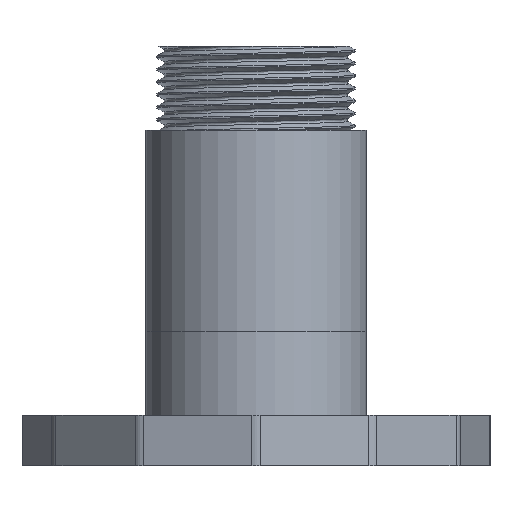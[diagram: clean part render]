
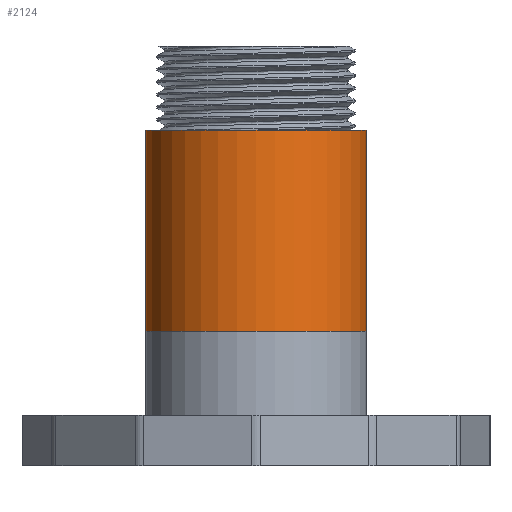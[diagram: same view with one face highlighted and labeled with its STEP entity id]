
A CAD part, front view. The second image highlights one B-rep face of the part: STEP entity #2124.
In plain terms, the highlighted cylindrical face has radius 13.15 mm (diameter 26.3 mm), a full revolution.
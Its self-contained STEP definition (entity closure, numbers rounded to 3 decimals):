
#122 = PLANE('',#123);
#123 = AXIS2_PLACEMENT_3D('',#124,#125,#126);
#124 = CARTESIAN_POINT('',(0.,0.,6.));
#125 = DIRECTION('',(0.,0.,1.));
#126 = DIRECTION('',(1.,0.,0.));
#1490 = EDGE_CURVE('',#1491,#1491,#1493,.T.);
#1491 = VERTEX_POINT('',#1492);
#1492 = CARTESIAN_POINT('',(13.15,0.,6.));
#1493 = SURFACE_CURVE('',#1494,(#1499,#1506),.PCURVE_S1.);
#1494 = CIRCLE('',#1495,13.15);
#1495 = AXIS2_PLACEMENT_3D('',#1496,#1497,#1498);
#1496 = CARTESIAN_POINT('',(0.,0.,6.));
#1497 = DIRECTION('',(0.,0.,1.));
#1498 = DIRECTION('',(1.,0.,0.));
#1499 = PCURVE('',#122,#1500);
#1500 = DEFINITIONAL_REPRESENTATION('',(#1501),#1505);
#1501 = CIRCLE('',#1502,13.15);
#1502 = AXIS2_PLACEMENT_2D('',#1503,#1504);
#1503 = CARTESIAN_POINT('',(0.,0.));
#1504 = DIRECTION('',(1.,0.));
#1505 = ( GEOMETRIC_REPRESENTATION_CONTEXT(2) 
PARAMETRIC_REPRESENTATION_CONTEXT() REPRESENTATION_CONTEXT('2D SPACE',''
  ) );
#1506 = PCURVE('',#1507,#1512);
#1507 = CYLINDRICAL_SURFACE('',#1508,13.15);
#1508 = AXIS2_PLACEMENT_3D('',#1509,#1510,#1511);
#1509 = CARTESIAN_POINT('',(0.,0.,6.));
#1510 = DIRECTION('',(-0.,-0.,-1.));
#1511 = DIRECTION('',(1.,0.,0.));
#1512 = DEFINITIONAL_REPRESENTATION('',(#1513),#1517);
#1513 = LINE('',#1514,#1515);
#1514 = CARTESIAN_POINT('',(-0.,0.));
#1515 = VECTOR('',#1516,1.);
#1516 = DIRECTION('',(-1.,0.));
#1517 = ( GEOMETRIC_REPRESENTATION_CONTEXT(2) 
PARAMETRIC_REPRESENTATION_CONTEXT() REPRESENTATION_CONTEXT('2D SPACE',''
  ) );
#2124 = ADVANCED_FACE('',(#2125),#1507,.T.);
#2125 = FACE_BOUND('',#2126,.F.);
#2126 = EDGE_LOOP('',(#2127,#2128,#2151,#2182));
#2127 = ORIENTED_EDGE('',*,*,#1490,.F.);
#2128 = ORIENTED_EDGE('',*,*,#2129,.T.);
#2129 = EDGE_CURVE('',#1491,#2130,#2132,.T.);
#2130 = VERTEX_POINT('',#2131);
#2131 = CARTESIAN_POINT('',(13.15,0.,40.));
#2132 = SEAM_CURVE('',#2133,(#2137,#2144),.PCURVE_S1.);
#2133 = LINE('',#2134,#2135);
#2134 = CARTESIAN_POINT('',(13.15,0.,6.));
#2135 = VECTOR('',#2136,1.);
#2136 = DIRECTION('',(0.,0.,1.));
#2137 = PCURVE('',#1507,#2138);
#2138 = DEFINITIONAL_REPRESENTATION('',(#2139),#2143);
#2139 = LINE('',#2140,#2141);
#2140 = CARTESIAN_POINT('',(-6.283,0.));
#2141 = VECTOR('',#2142,1.);
#2142 = DIRECTION('',(-0.,-1.));
#2143 = ( GEOMETRIC_REPRESENTATION_CONTEXT(2) 
PARAMETRIC_REPRESENTATION_CONTEXT() REPRESENTATION_CONTEXT('2D SPACE',''
  ) );
#2144 = PCURVE('',#1507,#2145);
#2145 = DEFINITIONAL_REPRESENTATION('',(#2146),#2150);
#2146 = LINE('',#2147,#2148);
#2147 = CARTESIAN_POINT('',(-0.,0.));
#2148 = VECTOR('',#2149,1.);
#2149 = DIRECTION('',(-0.,-1.));
#2150 = ( GEOMETRIC_REPRESENTATION_CONTEXT(2) 
PARAMETRIC_REPRESENTATION_CONTEXT() REPRESENTATION_CONTEXT('2D SPACE',''
  ) );
#2151 = ORIENTED_EDGE('',*,*,#2152,.F.);
#2152 = EDGE_CURVE('',#2130,#2130,#2153,.T.);
#2153 = SURFACE_CURVE('',#2154,(#2159,#2166),.PCURVE_S1.);
#2154 = CIRCLE('',#2155,13.15);
#2155 = AXIS2_PLACEMENT_3D('',#2156,#2157,#2158);
#2156 = CARTESIAN_POINT('',(0.,0.,40.));
#2157 = DIRECTION('',(0.,0.,-1.));
#2158 = DIRECTION('',(1.,0.,0.));
#2159 = PCURVE('',#1507,#2160);
#2160 = DEFINITIONAL_REPRESENTATION('',(#2161),#2165);
#2161 = LINE('',#2162,#2163);
#2162 = CARTESIAN_POINT('',(-6.283,-34.));
#2163 = VECTOR('',#2164,1.);
#2164 = DIRECTION('',(1.,-0.));
#2165 = ( GEOMETRIC_REPRESENTATION_CONTEXT(2) 
PARAMETRIC_REPRESENTATION_CONTEXT() REPRESENTATION_CONTEXT('2D SPACE',''
  ) );
#2166 = PCURVE('',#2167,#2172);
#2167 = PLANE('',#2168);
#2168 = AXIS2_PLACEMENT_3D('',#2169,#2170,#2171);
#2169 = CARTESIAN_POINT('',(0.,0.,40.));
#2170 = DIRECTION('',(0.,0.,1.));
#2171 = DIRECTION('',(1.,0.,0.));
#2172 = DEFINITIONAL_REPRESENTATION('',(#2173),#2181);
#2173 = ( BOUNDED_CURVE() B_SPLINE_CURVE(2,(#2174,#2175,#2176,#2177,
#2178,#2179,#2180),.UNSPECIFIED.,.T.,.F.) B_SPLINE_CURVE_WITH_KNOTS((1,2
    ,2,2,2,1),(-2.094,0.,2.094,4.189,
6.283,8.378),.UNSPECIFIED.) CURVE() 
GEOMETRIC_REPRESENTATION_ITEM() RATIONAL_B_SPLINE_CURVE((1.,0.5,1.,0.5,
1.,0.5,1.)) REPRESENTATION_ITEM('') );
#2174 = CARTESIAN_POINT('',(13.15,0.));
#2175 = CARTESIAN_POINT('',(13.15,-22.776));
#2176 = CARTESIAN_POINT('',(-6.575,-11.388));
#2177 = CARTESIAN_POINT('',(-26.3,0.));
#2178 = CARTESIAN_POINT('',(-6.575,11.388));
#2179 = CARTESIAN_POINT('',(13.15,22.776));
#2180 = CARTESIAN_POINT('',(13.15,0.));
#2181 = ( GEOMETRIC_REPRESENTATION_CONTEXT(2) 
PARAMETRIC_REPRESENTATION_CONTEXT() REPRESENTATION_CONTEXT('2D SPACE',''
  ) );
#2182 = ORIENTED_EDGE('',*,*,#2129,.F.);
